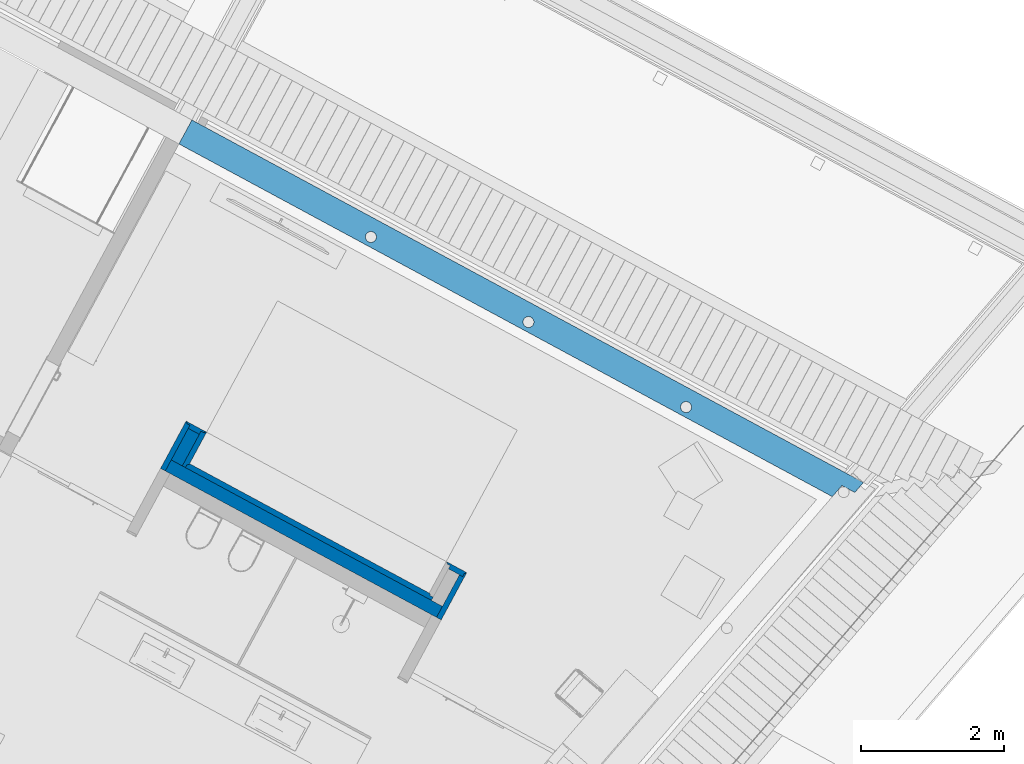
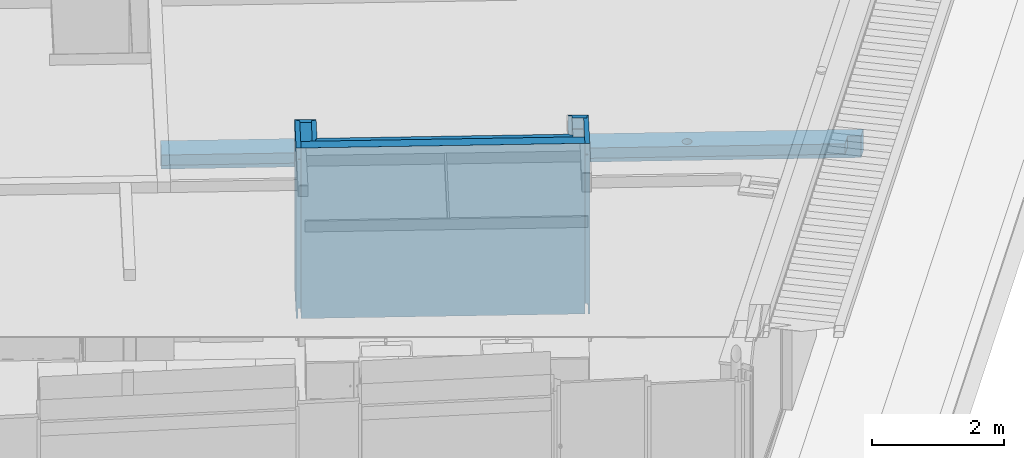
# One storey, part 11 of 48: 9 walls.
"""IFC2X3 building model written with IfcOpenShell, lengths in metres."""

from ifc_helpers import new_model, entity, si_unit, converted_unit, derived_unit, money_unit, direction, frame, origin_with_axes, place, context, subcontext, project, spatial, faceted_brep, material, material_list, type_object, element, save


model = new_model("IFC2X3")

# Units and contexts
model_context = context("Model", 3, precision=1e-05, world=origin_with_axes(), true_north=direction((0.0, 1.0)))
body_context = subcontext(model_context, "Body", "Model", "MODEL_VIEW")
ifc_project = project(units=[si_unit("LENGTHUNIT", "METRE"), si_unit("AREAUNIT", "SQUARE_METRE"), si_unit("VOLUMEUNIT", "CUBIC_METRE"), converted_unit("PLANEANGLEUNIT", "DEGREE", entity("IfcPlaneAngleMeasure", 0.0174532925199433), si_unit("PLANEANGLEUNIT", "RADIAN"), dimensions=[0, 0, 0, 0, 0, 0, 0]), money_unit("EUR"), converted_unit("TIMEUNIT", "Year", entity("IfcTimeMeasure", 31556926.0), si_unit("TIMEUNIT", "SECOND"), dimensions=[0, 0, 1, 0, 0, 0, 0]), si_unit("MASSUNIT", "GRAM", prefix="KILO"), si_unit("THERMODYNAMICTEMPERATUREUNIT", "DEGREE_CELSIUS"), si_unit("LUMINOUSINTENSITYUNIT", "LUMEN"), si_unit("ENERGYUNIT", "JOULE", prefix="MEGA"), derived_unit("THERMALCONDUCTANCEUNIT", [(si_unit("POWERUNIT", "WATT"), 1), (si_unit("LENGTHUNIT", "METRE"), -1), (si_unit("THERMODYNAMICTEMPERATUREUNIT", "KELVIN"), -1)]), derived_unit("SPECIFICHEATCAPACITYUNIT", [(si_unit("ENERGYUNIT", "JOULE"), 1), (si_unit("MASSUNIT", "GRAM", prefix="KILO"), -1), (si_unit("THERMODYNAMICTEMPERATUREUNIT", "KELVIN"), -1)]), derived_unit("MASSDENSITYUNIT", [(si_unit("MASSUNIT", "GRAM", prefix="KILO"), 1), (si_unit("VOLUMEUNIT", "CUBIC_METRE"), -1)])], contexts=[model_context])

# Site, building, storey
site_placement = place(None, frame((-3.949935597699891, 1.740105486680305, 0.0), z_axis=(0.0, 0.0, 1.0), x_axis=(0.8799804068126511, -0.475009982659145, 0.0)))
site = spatial("IfcSite", under=ifc_project, at=site_placement, Name="Gelände", CompositionType="ELEMENT")
building_placement = place(site_placement, origin_with_axes())
building = spatial("IfcBuilding", under=site, at=building_placement, Name="Gebäude", CompositionType="ELEMENT")
storey_placement = place(building_placement, frame((0.0, 0.0, 4.55), z_axis=(0.0, 0.0, 1.0), x_axis=(1.0, 0.0, 0.0)))
storey = spatial("IfcBuildingStorey", under=building, at=storey_placement, Name="Staffelgeschoss", CompositionType="ELEMENT", Elevation=4.55)

# Walls
ifc_material_1 = material(Name="_SIWH - MW Kalksandstein")
wall_type_1 = type_object("IfcWallType", Name="_SIWH - WI | KS 17,5 | 17,5cm 175", PredefinedType="NOTDEFINED")
wall_1_placement = place(storey_placement, frame((19.36753332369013, 7.227148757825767, -0.1900000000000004), z_axis=(0.0, 0.0, 1.0), x_axis=(0.0, -1.0, 0.0)))
element("IfcWall", 1, at=wall_1_placement, inside=storey, type_object=wall_type_1, material=ifc_material_1, Name="I-Wand012", context=body_context, shape_type="Brep", body=[
    faceted_brep([(0.0, 0.0, 0.0), (0.0, 0.0, 3.154), (0.0, 0.1750000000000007, 3.154), (0.0, 0.1750000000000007, 0.0), (0.5, 0.0, 0.0), (0.5, 0.0, 3.154), (0.5, 0.1750000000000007, 3.154), (0.5, 0.1750000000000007, 0.0)], [[[0, 1, 2, 3]], [[4, 5, 1, 0]], [[5, 6, 2, 1]], [[3, 2, 6, 7]], [[3, 7, 4, 0]], [[7, 6, 5, 4]]]),
])
wall_2_placement = place(storey_placement, frame((23.66753332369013, 6.552148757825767, -0.1900000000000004), z_axis=(0.0, 0.0, 1.0), x_axis=(-1.0, 0.0, 0.0)))
element("IfcWall", 2, at=wall_2_placement, inside=storey, type_object=wall_type_1, material=ifc_material_1, Name="I-Wand020", context=body_context, shape_type="Brep", body=[
    faceted_brep([(4.300000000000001, -0.1750000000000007, 0.0), (4.300000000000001, -0.1749999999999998, 3.154), (0.0, -0.1749999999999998, 3.154), (0.0, -0.1749999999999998, 0.0), (4.300000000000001, 0.0, 0.0), (4.300000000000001, 0.0, 3.154), (0.0, 0.0, 3.154), (0.0, 0.0, 0.0)], [[[0, 1, 2, 3]], [[4, 5, 1, 0]], [[5, 6, 2, 1]], [[3, 2, 6, 7]], [[7, 4, 0, 3]], [[7, 6, 5, 4]]]),
])
ifc_material_2 = material(Name="_SIWH - Gipskarton")
ifc_material_3 = material(Name="_SIWH - Installationswand, raumhoch")
ifc_material_list_1 = material_list([ifc_material_2, ifc_material_2, ifc_material_3])
wall_type_2 = type_object("IfcWallType", Name="_SIWH - WI | Vorsatz-GK 2-lagig | 7,5cm  75", PredefinedType="NOTDEFINED")
wall_3_placement = place(storey_placement, frame((19.29253332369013, 6.552148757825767, -0.1899999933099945), z_axis=(0.0, 0.0, 1.0), x_axis=(0.0, 1.0, 0.0)))
element("IfcWall", 3, at=wall_3_placement, inside=storey, type_object=wall_type_2, material=ifc_material_list_1, Name="L-Wand021", context=body_context, shape_type="Brep", body=[
    faceted_brep([(0.75, 0.0, 3.153999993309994), (0.0, 0.0, 3.153999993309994), (0.0, -0.01249999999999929, 3.153999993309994), (0.75, -0.01249999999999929, 3.153999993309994), (0.75, 0.0, 0.0), (0.0, 0.0, 0.0), (0.0, -0.01249999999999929, 0.0), (0.75, -0.01249999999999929, 0.0)], [[[0, 1, 2, 3]], [[4, 5, 1, 0]], [[2, 1, 5, 6]], [[3, 2, 6, 7]], [[3, 7, 4, 0]], [[7, 6, 5, 4]]]),
    faceted_brep([(0.7374999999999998, -0.01249999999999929, 3.153999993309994), (0.0, -0.01249999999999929, 3.153999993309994), (0.0, -0.02499999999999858, 3.153999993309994), (0.7374999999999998, -0.02499999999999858, 3.153999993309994), (0.7374999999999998, -0.01249999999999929, 0.0), (0.0, -0.01249999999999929, 0.0), (0.0, -0.02499999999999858, 0.0), (0.7374999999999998, -0.02499999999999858, 0.0)], [[[0, 1, 2, 3]], [[4, 5, 1, 0]], [[2, 1, 5, 6]], [[3, 2, 6, 7]], [[3, 7, 4, 0]], [[7, 6, 5, 4]]]),
    faceted_brep([(0.0, -0.07499999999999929, 0.1899999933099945), (0.7249999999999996, -0.07499999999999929, 0.1899999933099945), (0.7249999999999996, -0.07499999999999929, 2.939999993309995), (0.0, -0.07499999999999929, 2.939999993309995), (0.7249999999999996, -0.02499999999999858, 0.1899999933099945), (0.0, -0.02499999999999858, 0.1899999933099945), (0.7249999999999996, -0.02499999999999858, 2.939999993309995), (0.0, -0.02499999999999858, 2.939999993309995)], [[[0, 1, 2, 3]], [[4, 1, 0, 5]], [[1, 4, 6, 2]], [[3, 2, 6, 7]], [[5, 0, 3, 7]], [[4, 5, 7, 6]]]),
    faceted_brep([(0.0, -0.07499999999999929, 2.954999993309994), (0.7249999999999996, -0.07499999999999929, 2.954999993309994), (0.7249999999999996, -0.07499999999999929, 3.153999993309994), (0.0, -0.07499999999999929, 3.153999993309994), (0.7249999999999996, -0.02499999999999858, 2.954999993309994), (0.0, -0.02499999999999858, 2.954999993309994), (0.7249999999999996, -0.02499999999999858, 3.153999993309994), (0.0, -0.02499999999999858, 3.153999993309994)], [[[0, 1, 2, 3]], [[4, 1, 0, 5]], [[1, 4, 6, 2]], [[2, 6, 7, 3]], [[5, 0, 3, 7]], [[4, 5, 7, 6]]]),
])
wall_4_placement = place(storey_placement, frame((19.29253332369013, 7.302148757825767, -0.1899999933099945), z_axis=(0.0, 0.0, 1.0), x_axis=(1.0, 0.0, 0.0)))
element("IfcWall", 4, at=wall_4_placement, inside=storey, type_object=wall_type_2, material=ifc_material_list_1, Name="L-Wand030", context=body_context, shape_type="Brep", body=[
    faceted_brep([(0.3125, 0.0, 3.153999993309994), (0.01249999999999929, 0.0, 3.153999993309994), (0.01249999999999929, -0.01250000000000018, 3.153999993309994), (0.3125, -0.01250000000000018, 3.153999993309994), (0.3125, 0.0, 0.0), (0.01249999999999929, 0.0, 0.0), (0.01249999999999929, -0.01250000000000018, 0.0), (0.3125, -0.01250000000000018, 0.0)], [[[0, 1, 2, 3]], [[4, 5, 1, 0]], [[2, 1, 5, 6]], [[3, 2, 6, 7]], [[3, 7, 4, 0]], [[7, 6, 5, 4]]]),
    faceted_brep([(0.3000000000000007, -0.01250000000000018, 3.153999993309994), (0.02499999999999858, -0.01250000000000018, 3.153999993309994), (0.02499999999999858, -0.02499999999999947, 3.153999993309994), (0.3000000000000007, -0.02499999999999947, 3.153999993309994), (0.3000000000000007, -0.01250000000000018, 0.0), (0.02499999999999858, -0.01250000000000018, 0.0), (0.02499999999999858, -0.02500000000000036, 0.0), (0.3000000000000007, -0.02500000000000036, 0.0)], [[[0, 1, 2, 3]], [[4, 5, 1, 0]], [[2, 1, 5, 6]], [[3, 2, 6, 7]], [[3, 7, 4, 0]], [[7, 6, 5, 4]]]),
    faceted_brep([(0.25, -0.07500000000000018, 0.1899999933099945), (0.25, -0.02500000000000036, 0.1899999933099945), (0.25, -0.02499999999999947, 2.939999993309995), (0.25, -0.07500000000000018, 2.939999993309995), (0.07499999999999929, -0.02500000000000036, 0.1899999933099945), (0.07499999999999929, -0.07500000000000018, 0.1899999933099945), (0.07499999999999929, -0.02499999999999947, 2.939999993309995), (0.07499999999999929, -0.07500000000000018, 2.939999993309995)], [[[0, 1, 2, 3]], [[4, 1, 0, 5]], [[1, 4, 6, 2]], [[3, 2, 6, 7]], [[5, 0, 3, 7]], [[4, 5, 7, 6]]]),
    faceted_brep([(0.25, -0.07500000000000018, 2.954999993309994), (0.25, -0.02499999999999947, 2.954999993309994), (0.25, -0.02499999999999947, 3.153999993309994), (0.25, -0.07500000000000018, 3.153999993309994), (0.07499999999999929, -0.02499999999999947, 2.954999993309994), (0.07499999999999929, -0.07500000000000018, 2.954999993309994), (0.07499999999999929, -0.02499999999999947, 3.153999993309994), (0.07499999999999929, -0.07500000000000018, 3.153999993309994)], [[[0, 1, 2, 3]], [[4, 1, 0, 5]], [[1, 4, 6, 2]], [[3, 2, 6, 7]], [[5, 0, 3, 7]], [[4, 5, 7, 6]]]),
])
wall_5_placement = place(storey_placement, frame((19.61753332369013, 6.802148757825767, -0.1899999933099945), z_axis=(0.0, 0.0, 1.0), x_axis=(1.0, 0.0, 0.0)))
element("IfcWall", 5, at=wall_5_placement, inside=storey, type_object=wall_type_2, material=ifc_material_list_1, Name="L-Wand031", context=body_context, shape_type="Brep", body=[
    faceted_brep([(3.8125, 0.0, 3.153999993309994), (0.0, 0.0, 3.153999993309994), (0.0, -0.01250000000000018, 3.153999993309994), (3.8125, -0.01249999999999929, 3.153999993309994), (3.8125, 0.0, 0.0), (0.0, 0.0, 0.0), (0.0, -0.01250000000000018, 0.0), (3.8125, -0.01250000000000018, 0.0)], [[[0, 1, 2, 3]], [[4, 5, 1, 0]], [[2, 1, 5, 6]], [[3, 2, 6, 7]], [[3, 7, 4, 0]], [[7, 6, 5, 4]]]),
    faceted_brep([(3.824999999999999, -0.01249999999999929, 3.153999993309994), (-0.01249999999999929, -0.01250000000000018, 3.153999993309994), (-0.01249999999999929, -0.02499999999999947, 3.153999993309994), (3.824999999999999, -0.02499999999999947, 3.153999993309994), (3.824999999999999, -0.01250000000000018, 0.0), (-0.01249999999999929, -0.01250000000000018, 0.0), (-0.01249999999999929, -0.02500000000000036, 0.0), (3.824999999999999, -0.02499999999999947, 0.0)], [[[0, 1, 2, 3]], [[4, 5, 1, 0]], [[2, 1, 5, 6]], [[3, 2, 6, 7]], [[3, 7, 4, 0]], [[7, 6, 5, 4]]]),
    faceted_brep([(3.875, -0.07500000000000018, 0.1899999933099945), (3.875, -0.02499999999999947, 0.1899999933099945), (3.875, -0.02499999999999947, 2.939999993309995), (3.875, -0.07499999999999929, 2.939999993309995), (-0.02499999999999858, -0.02500000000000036, 0.1899999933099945), (-0.02499999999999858, -0.07500000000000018, 0.1899999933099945), (-0.02499999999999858, -0.02499999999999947, 2.939999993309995), (-0.02499999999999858, -0.07500000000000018, 2.939999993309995)], [[[0, 1, 2, 3]], [[4, 1, 0, 5]], [[1, 4, 6, 2]], [[3, 2, 6, 7]], [[5, 0, 3, 7]], [[4, 5, 7, 6]]]),
    faceted_brep([(3.875, -0.07499999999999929, 2.954999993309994), (3.875, -0.02499999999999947, 2.954999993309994), (3.875, -0.02499999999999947, 3.153999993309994), (3.875, -0.07499999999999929, 3.153999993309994), (-0.02499999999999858, -0.02499999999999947, 2.954999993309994), (-0.02499999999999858, -0.07500000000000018, 2.954999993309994), (-0.02499999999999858, -0.02499999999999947, 3.153999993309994), (-0.02499999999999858, -0.07500000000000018, 3.153999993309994)], [[[0, 1, 2, 3]], [[4, 1, 0, 5]], [[1, 4, 6, 2]], [[3, 2, 6, 7]], [[5, 0, 3, 7]], [[4, 5, 7, 6]]]),
])
wall_6_placement = place(storey_placement, frame((19.61753332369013, 7.302148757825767, -0.1899999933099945), z_axis=(0.0, 0.0, 1.0), x_axis=(0.0, -1.0, 0.0)))
element("IfcWall", 6, at=wall_6_placement, inside=storey, type_object=wall_type_2, material=ifc_material_list_1, Name="L-Wand029", context=body_context, shape_type="Brep", body=[
    faceted_brep([(0.5125000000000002, 0.0, 3.153999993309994), (0.0, 0.0, 3.153999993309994), (0.0, -0.01249999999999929, 3.153999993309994), (0.5125000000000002, -0.01249999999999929, 3.153999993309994), (0.5125000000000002, 0.0, 0.0), (0.0, 0.0, 0.0), (0.0, -0.01249999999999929, 0.0), (0.5125000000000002, -0.01249999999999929, 0.0)], [[[0, 1, 2, 3]], [[4, 5, 1, 0]], [[2, 1, 5, 6]], [[3, 2, 6, 7]], [[3, 7, 4, 0]], [[7, 6, 5, 4]]]),
    faceted_brep([(0.5250000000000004, -0.01249999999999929, 3.153999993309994), (0.01250000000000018, -0.01249999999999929, 3.153999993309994), (0.01250000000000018, -0.02499999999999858, 3.153999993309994), (0.5250000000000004, -0.02499999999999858, 3.153999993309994), (0.5250000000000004, -0.01249999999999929, 0.0), (0.01250000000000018, -0.01249999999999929, 0.0), (0.01250000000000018, -0.02499999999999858, 0.0), (0.5250000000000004, -0.02499999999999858, 0.0)], [[[0, 1, 2, 3]], [[4, 5, 1, 0]], [[2, 1, 5, 6]], [[3, 2, 6, 7]], [[3, 7, 4, 0]], [[7, 6, 5, 4]]]),
    faceted_brep([(0.5750000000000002, -0.02499999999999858, 0.1899999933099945), (0.02500000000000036, -0.02499999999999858, 0.1899999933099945), (0.02500000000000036, -0.02499999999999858, 2.939999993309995), (0.5750000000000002, -0.02499999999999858, 2.939999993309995), (0.02500000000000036, -0.07499999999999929, 0.1899999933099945), (0.5750000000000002, -0.07499999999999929, 0.1899999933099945), (0.02500000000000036, -0.07499999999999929, 2.939999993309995), (0.5750000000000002, -0.07499999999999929, 2.939999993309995)], [[[0, 1, 2, 3]], [[4, 1, 0, 5]], [[1, 4, 6, 2]], [[3, 2, 6, 7]], [[5, 0, 3, 7]], [[4, 5, 7, 6]]]),
    faceted_brep([(0.5750000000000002, -0.02499999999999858, 2.954999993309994), (0.02500000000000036, -0.02499999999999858, 2.954999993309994), (0.02500000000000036, -0.02499999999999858, 3.153999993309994), (0.5750000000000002, -0.02499999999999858, 3.153999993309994), (0.02500000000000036, -0.07499999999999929, 2.954999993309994), (0.5750000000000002, -0.07499999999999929, 2.954999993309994), (0.02500000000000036, -0.07499999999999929, 3.153999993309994), (0.5750000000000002, -0.07499999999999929, 3.153999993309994)], [[[0, 1, 2, 3]], [[4, 1, 0, 5]], [[1, 4, 6, 2]], [[7, 3, 2, 6]], [[5, 0, 3, 7]], [[4, 5, 7, 6]]]),
])
wall_7_placement = place(storey_placement, frame((23.41753332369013, 7.302148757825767, -0.1899999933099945), z_axis=(0.0, 0.0, 1.0), x_axis=(1.0, 0.0, 0.0)))
element("IfcWall", 7, at=wall_7_placement, inside=storey, type_object=wall_type_2, material=ifc_material_list_1, Name="L-Wand038", context=body_context, shape_type="Brep", body=[
    faceted_brep([(0.3249999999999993, 0.0, 3.153999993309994), (0.01249999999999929, 0.0, 3.153999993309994), (0.01249999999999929, -0.01250000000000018, 3.153999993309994), (0.3249999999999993, -0.01250000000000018, 3.153999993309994), (0.3249999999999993, 0.0, 0.0), (0.01249999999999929, 0.0, 0.0), (0.01249999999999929, -0.01250000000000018, 0.0), (0.3249999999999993, -0.01250000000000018, 0.0)], [[[0, 1, 2, 3]], [[4, 5, 1, 0]], [[2, 1, 5, 6]], [[3, 2, 6, 7]], [[3, 7, 4, 0]], [[7, 6, 5, 4]]]),
    faceted_brep([(0.3125, -0.01250000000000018, 3.153999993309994), (0.02499999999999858, -0.01250000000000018, 3.153999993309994), (0.02499999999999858, -0.02499999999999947, 3.153999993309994), (0.3125, -0.02499999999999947, 3.153999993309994), (0.3125, -0.01250000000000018, 0.0), (0.02499999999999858, -0.01250000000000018, 0.0), (0.02499999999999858, -0.02500000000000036, 0.0), (0.3125, -0.02500000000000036, 0.0)], [[[0, 1, 2, 3]], [[4, 5, 1, 0]], [[2, 1, 5, 6]], [[3, 2, 6, 7]], [[3, 7, 4, 0]], [[7, 6, 5, 4]]]),
    faceted_brep([(0.3000000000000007, -0.07500000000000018, 0.1899999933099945), (0.3000000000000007, -0.02500000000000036, 0.1899999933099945), (0.3000000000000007, -0.02499999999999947, 2.939999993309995), (0.3000000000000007, -0.07500000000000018, 2.939999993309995), (0.07499999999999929, -0.02500000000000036, 0.1899999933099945), (0.07499999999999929, -0.07500000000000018, 0.1899999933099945), (0.07499999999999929, -0.02499999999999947, 2.939999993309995), (0.07499999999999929, -0.07500000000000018, 2.939999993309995)], [[[0, 1, 2, 3]], [[4, 1, 0, 5]], [[1, 4, 6, 2]], [[3, 2, 6, 7]], [[5, 0, 3, 7]], [[4, 5, 7, 6]]]),
    faceted_brep([(0.3000000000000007, -0.07500000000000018, 2.954999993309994), (0.3000000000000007, -0.02499999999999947, 2.954999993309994), (0.3000000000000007, -0.02499999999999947, 3.153999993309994), (0.3000000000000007, -0.07500000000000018, 3.153999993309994), (0.07499999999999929, -0.02499999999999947, 2.954999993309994), (0.07499999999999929, -0.07500000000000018, 2.954999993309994), (0.07499999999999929, -0.02499999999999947, 3.153999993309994), (0.07499999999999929, -0.07500000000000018, 3.153999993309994)], [[[0, 1, 2, 3]], [[4, 1, 0, 5]], [[1, 4, 6, 2]], [[3, 2, 6, 7]], [[5, 0, 3, 7]], [[4, 5, 7, 6]]]),
])
wall_8_placement = place(storey_placement, frame((23.74253332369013, 7.302148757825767, -0.1899999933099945), z_axis=(0.0, 0.0, 1.0), x_axis=(0.0, -1.0, 0.0)))
element("IfcWall", 8, at=wall_8_placement, inside=storey, type_object=wall_type_2, material=ifc_material_list_1, Name="L-Wand042", context=body_context, shape_type="Brep", body=[
    faceted_brep([(0.75, -0.01249999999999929, 3.153999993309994), (0.75, 0.0, 3.153999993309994), (0.01250000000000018, 0.0, 3.153999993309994), (0.01250000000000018, -0.01249999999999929, 3.153999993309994), (0.75, -0.01249999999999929, 0.0), (0.75, 0.0, 0.0), (0.01250000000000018, 0.0, 0.0), (0.01250000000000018, -0.01249999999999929, 0.0)], [[[0, 1, 2, 3]], [[0, 4, 5, 1]], [[1, 5, 6, 2]], [[3, 2, 6, 7]], [[4, 0, 3, 7]], [[5, 4, 7, 6]]]),
    faceted_brep([(0.75, -0.02499999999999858, 3.153999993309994), (0.75, -0.01249999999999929, 3.153999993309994), (0.02500000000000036, -0.01249999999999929, 3.153999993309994), (0.02500000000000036, -0.02499999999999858, 3.153999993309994), (0.75, -0.02499999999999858, 0.0), (0.75, -0.01249999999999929, 0.0), (0.02500000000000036, -0.01249999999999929, 0.0), (0.02500000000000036, -0.02499999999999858, 0.0)], [[[0, 1, 2, 3]], [[0, 4, 5, 1]], [[1, 5, 6, 2]], [[3, 2, 6, 7]], [[4, 0, 3, 7]], [[5, 4, 7, 6]]]),
    faceted_brep([(0.75, -0.02499999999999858, 0.1899999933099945), (0.07500000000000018, -0.02499999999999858, 0.1899999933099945), (0.07500000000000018, -0.02499999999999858, 2.939999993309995), (0.75, -0.02499999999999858, 2.939999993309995), (0.07500000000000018, -0.07499999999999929, 0.1899999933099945), (0.75, -0.07499999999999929, 0.1899999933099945), (0.07500000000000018, -0.07499999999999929, 2.939999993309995), (0.75, -0.07499999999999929, 2.939999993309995)], [[[0, 1, 2, 3]], [[4, 1, 0, 5]], [[1, 4, 6, 2]], [[3, 2, 6, 7]], [[5, 0, 3, 7]], [[4, 5, 7, 6]]]),
    faceted_brep([(0.75, -0.02499999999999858, 2.954999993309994), (0.07500000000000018, -0.02499999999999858, 2.954999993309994), (0.07500000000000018, -0.02499999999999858, 3.153999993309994), (0.75, -0.02499999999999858, 3.153999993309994), (0.07500000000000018, -0.07499999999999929, 2.954999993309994), (0.75, -0.07499999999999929, 2.954999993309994), (0.07500000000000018, -0.07499999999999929, 3.153999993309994), (0.75, -0.07499999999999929, 3.153999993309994)], [[[0, 1, 2, 3]], [[4, 1, 0, 5]], [[1, 4, 6, 2]], [[6, 7, 3, 2]], [[5, 0, 3, 7]], [[4, 5, 7, 6]]]),
])
ifc_material_4 = material(Name="_SIWH - Beton, Stahlbeton")
ifc_material_5 = material(Name="_SIWH - Dämmung, weich Mineralwolle")
ifc_material_list_2 = material_list([ifc_material_4, ifc_material_5])
wall_type_3 = type_object("IfcWallType", Name="_SIWH - WA | Stb. 20+WD 18 | 38cm 380", PredefinedType="NOTDEFINED")
wall_9_placement = place(storey_placement, frame((27.97633107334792, 10.85780061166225, -0.4000000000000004), z_axis=(0.0, 0.0, 1.0), x_axis=(-1.0, 0.0, 0.0)))
element("IfcWall", 9, at=wall_9_placement, inside=storey, type_object=wall_type_3, material=ifc_material_list_2, Name="A-Wand050", context=body_context, shape_type="Brep", body=[
    faceted_brep([(7.573870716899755, 0.02533533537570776, 0.4000000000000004), (7.563075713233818, 0.04652172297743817, 0.4000000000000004), (7.55935600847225, 0.07000701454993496, 0.4000000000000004), (7.563075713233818, 0.09349230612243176, 0.4000000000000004), (7.573870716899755, 0.1146786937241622, 0.4000000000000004), (7.590684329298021, 0.1314923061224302, 0.4000000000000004), (7.611870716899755, 0.142287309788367, 0.4000000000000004), (7.63535600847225, 0.1460070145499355, 0.4000000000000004), (7.658841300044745, 0.142287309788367, 0.4000000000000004), (7.680027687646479, 0.1314923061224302, 0.4000000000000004), (7.696841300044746, 0.1146786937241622, 0.4000000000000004), (7.707636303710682, 0.09349230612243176, 0.4000000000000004), (7.711356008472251, 0.07000701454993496, 0.4000000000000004), (7.707636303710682, 0.04652172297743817, 0.4000000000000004), (7.696841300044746, 0.02533533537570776, 0.4000000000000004), (7.680027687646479, 0.008521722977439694, 0.4000000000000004), (7.663302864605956, 0.0, 0.4000000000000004), (10.60884069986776, 0.0, 0.4000000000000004), (10.60884069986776, 0.2000000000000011, 0.4000000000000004), (0.248396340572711, 0.1999999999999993, 0.4000000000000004), (0.204714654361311, 0.0, 0.4000000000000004), (2.610409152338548, 0.0, 0.4000000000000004), (2.593684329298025, 0.008521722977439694, 0.4000000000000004), (2.576870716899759, 0.02533533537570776, 0.4000000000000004), (2.566075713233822, 0.04652172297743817, 0.4000000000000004), (2.562356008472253, 0.07000701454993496, 0.4000000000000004), (2.566075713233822, 0.09349230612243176, 0.4000000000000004), (2.576870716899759, 0.1146786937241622, 0.4000000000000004), (2.593684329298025, 0.1314923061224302, 0.4000000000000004), (2.614870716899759, 0.142287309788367, 0.4000000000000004), (2.638356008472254, 0.1460070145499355, 0.4000000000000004), (2.661841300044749, 0.142287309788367, 0.4000000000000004), (2.683027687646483, 0.1314923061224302, 0.4000000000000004), (2.699841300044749, 0.1146786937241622, 0.4000000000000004), (2.710636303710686, 0.09349230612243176, 0.4000000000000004), (2.714356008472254, 0.07000701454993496, 0.4000000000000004), (2.710636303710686, 0.04652172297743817, 0.4000000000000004), (2.699841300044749, 0.02533533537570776, 0.4000000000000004), (2.683027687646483, 0.008521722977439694, 0.4000000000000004), (2.66630286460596, 0.0, 0.4000000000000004), (5.108909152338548, 0.0, 0.4000000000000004), (5.092184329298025, 0.008521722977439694, 0.4000000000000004), (5.075370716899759, 0.02533533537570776, 0.4000000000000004), (5.064575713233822, 0.04652172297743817, 0.4000000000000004), (5.060856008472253, 0.07000701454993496, 0.4000000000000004), (5.064575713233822, 0.09349230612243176, 0.4000000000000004), (5.075370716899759, 0.1146786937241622, 0.4000000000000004), (5.092184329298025, 0.1314923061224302, 0.4000000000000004), (5.113370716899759, 0.142287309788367, 0.4000000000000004), (5.136856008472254, 0.1460070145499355, 0.4000000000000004), (5.160341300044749, 0.142287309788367, 0.4000000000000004), (5.181527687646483, 0.1314923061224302, 0.4000000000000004), (5.198341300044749, 0.1146786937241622, 0.4000000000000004), (5.209136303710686, 0.09349230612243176, 0.4000000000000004), (5.212856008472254, 0.07000701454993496, 0.4000000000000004), (5.209136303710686, 0.04652172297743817, 0.4000000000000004), (5.198341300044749, 0.02533533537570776, 0.4000000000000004), (5.181527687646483, 0.008521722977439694, 0.4000000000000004), (5.16480286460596, 0.0, 0.4000000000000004), (7.607409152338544, 0.0, 0.4000000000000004), (7.590684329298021, 0.008521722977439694, 0.4000000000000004), (7.573870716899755, 0.02533533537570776, 0.21), (7.563075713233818, 0.04652172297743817, 0.21), (7.55935600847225, 0.07000701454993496, 0.21), (7.563075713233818, 0.09349230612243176, 0.21), (7.573870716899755, 0.1146786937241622, 0.21), (7.590684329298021, 0.1314923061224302, 0.21), (7.611870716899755, 0.142287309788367, 0.21), (7.63535600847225, 0.1460070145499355, 0.21), (7.658841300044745, 0.142287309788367, 0.21), (7.680027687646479, 0.1314923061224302, 0.21), (7.696841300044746, 0.1146786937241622, 0.21), (7.707636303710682, 0.09349230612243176, 0.21), (7.711356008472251, 0.07000701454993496, 0.21), (7.707636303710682, 0.04652172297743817, 0.21), (7.696841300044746, 0.02533533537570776, 0.21), (7.680027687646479, 0.008521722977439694, 0.21), (7.663302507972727, -1.817137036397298e-07, 0.21), (10.60884069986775, -2.515588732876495e-07, 0.2100000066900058), (10.60884069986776, 0.2000000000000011, 0.2100000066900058), (0.248396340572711, 0.1999999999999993, 0.2100000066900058), (0.204714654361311, -4.854229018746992e-09, 0.2100000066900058), (2.61040927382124, -6.189852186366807e-08, 0.21), (2.593684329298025, 0.008521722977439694, 0.21), (2.576870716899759, 0.02533533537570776, 0.21), (2.566075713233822, 0.04652172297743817, 0.21), (2.562356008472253, 0.07000701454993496, 0.21), (2.566075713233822, 0.09349230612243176, 0.21), (2.576870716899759, 0.1146786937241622, 0.21), (2.593684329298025, 0.1314923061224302, 0.21), (2.614870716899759, 0.142287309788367, 0.21), (2.638356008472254, 0.1460070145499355, 0.21), (2.661841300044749, 0.142287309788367, 0.21), (2.683027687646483, 0.1314923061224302, 0.21), (2.699841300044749, 0.1146786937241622, 0.21), (2.710636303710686, 0.09349230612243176, 0.21), (2.714356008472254, 0.07000701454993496, 0.21), (2.710636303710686, 0.04652172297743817, 0.21), (2.699841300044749, 0.02533533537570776, 0.21), (2.683027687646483, 0.008521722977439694, 0.21), (2.666302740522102, -6.322388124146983e-08, 0.21), (5.108909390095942, -1.211434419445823e-07, 0.21), (5.092184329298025, 0.008521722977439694, 0.21), (5.075370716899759, 0.02533533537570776, 0.21), (5.064575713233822, 0.04652172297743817, 0.21), (5.060856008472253, 0.07000701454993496, 0.21), (5.064575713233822, 0.09349230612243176, 0.21), (5.075370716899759, 0.1146786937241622, 0.21), (5.092184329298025, 0.1314923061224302, 0.21), (5.113370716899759, 0.142287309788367, 0.21), (5.136856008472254, 0.1460070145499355, 0.21), (5.160341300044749, 0.142287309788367, 0.21), (5.181527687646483, 0.1314923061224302, 0.21), (5.198341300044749, 0.1146786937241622, 0.21), (5.209136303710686, 0.09349230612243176, 0.21), (5.212856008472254, 0.07000701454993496, 0.21), (5.209136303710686, 0.04652172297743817, 0.21), (5.198341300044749, 0.02533533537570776, 0.21), (5.181527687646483, 0.008521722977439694, 0.21), (5.164802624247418, -1.224687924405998e-07, 0.21), (7.607409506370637, -1.803883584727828e-07, 0.21), (7.590684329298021, 0.008521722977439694, 0.21)], [[[0, 1, 2, 3, 4, 5, 6, 7, 8, 9, 10, 11, 12, 13, 14, 15, 16, 17, 18, 19, 20, 21, 22, 23, 24, 25, 26, 27, 28, 29, 30, 31, 32, 33, 34, 35, 36, 37, 38, 39, 40, 41, 42, 43, 44, 45, 46, 47, 48, 49, 50, 51, 52, 53, 54, 55, 56, 57, 58, 59, 60]], [[1, 0, 61, 62]], [[2, 1, 62, 63]], [[3, 2, 63, 64]], [[4, 3, 64, 65]], [[5, 4, 65, 66]], [[6, 5, 66, 67]], [[7, 6, 67, 68]], [[8, 7, 68, 69]], [[9, 8, 69, 70]], [[10, 9, 70, 71]], [[11, 10, 71, 72]], [[12, 11, 72, 73]], [[13, 12, 73, 74]], [[14, 13, 74, 75]], [[15, 14, 75, 76]], [[77, 16, 15, 76]], [[16, 77, 78, 17]], [[17, 78, 79, 18]], [[18, 79, 80, 19]], [[19, 80, 81, 20]], [[82, 21, 20, 81]], [[22, 21, 82, 83]], [[23, 22, 83, 84]], [[24, 23, 84, 85]], [[25, 24, 85, 86]], [[26, 25, 86, 87]], [[27, 26, 87, 88]], [[28, 27, 88, 89]], [[29, 28, 89, 90]], [[30, 29, 90, 91]], [[31, 30, 91, 92]], [[32, 31, 92, 93]], [[33, 32, 93, 94]], [[34, 33, 94, 95]], [[35, 34, 95, 96]], [[36, 35, 96, 97]], [[37, 36, 97, 98]], [[38, 37, 98, 99]], [[100, 39, 38, 99]], [[101, 40, 39, 100]], [[41, 40, 101, 102]], [[42, 41, 102, 103]], [[43, 42, 103, 104]], [[44, 43, 104, 105]], [[45, 44, 105, 106]], [[46, 45, 106, 107]], [[47, 46, 107, 108]], [[48, 47, 108, 109]], [[49, 48, 109, 110]], [[50, 49, 110, 111]], [[51, 50, 111, 112]], [[52, 51, 112, 113]], [[53, 52, 113, 114]], [[54, 53, 114, 115]], [[55, 54, 115, 116]], [[56, 55, 116, 117]], [[57, 56, 117, 118]], [[119, 58, 57, 118]], [[120, 59, 58, 119]], [[60, 59, 120, 121]], [[0, 60, 121, 61]], [[121, 120, 119, 118, 117, 116, 115, 114, 113, 112, 111, 110, 109, 108, 107, 106, 105, 104, 103, 102, 101, 100, 99, 98, 97, 96, 95, 94, 93, 92, 91, 90, 89, 88, 87, 86, 85, 84, 83, 82, 81, 80, 79, 78, 77, 76, 75, 74, 73, 72, 71, 70, 69, 68, 67, 66, 65, 64, 63, 62, 61]]]),
    faceted_brep([(7.63535600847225, -0.005992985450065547, 0.4000000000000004), (7.611870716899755, -0.002273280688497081, 0.4000000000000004), (7.607409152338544, 0.0, 0.4000000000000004), (5.16480286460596, 0.0, 0.4000000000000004), (5.160341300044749, -0.002273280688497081, 0.4000000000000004), (5.136856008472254, -0.005992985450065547, 0.4000000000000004), (5.113370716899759, -0.002273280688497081, 0.4000000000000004), (5.108909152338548, 0.0, 0.4000000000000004), (2.66630286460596, 0.0, 0.4000000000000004), (2.661841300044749, -0.002273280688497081, 0.4000000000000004), (2.638356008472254, -0.005992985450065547, 0.4000000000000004), (2.614870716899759, -0.002273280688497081, 0.4000000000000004), (2.610409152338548, 0.0, 0.4000000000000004), (0.0, 0.0, 0.4000000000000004), (-0.03931351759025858, -0.1799999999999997, 0.4000000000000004), (10.60884069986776, -0.1799999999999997, 0.4000000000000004), (10.60884069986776, 0.0, 0.4000000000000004), (7.663302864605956, 0.0, 0.4000000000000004), (7.658841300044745, -0.002273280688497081, 0.4000000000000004), (7.63535600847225, -0.005992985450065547, 0.21), (7.611870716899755, -0.002273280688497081, 0.21), (7.607409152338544, 0.0, 0.21), (7.663302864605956, 0.0, 0.21), (10.60884069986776, 0.0, 0.0), (0.0, 0.0, 0.0), (2.610409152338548, 0.0, 0.21), (2.66630286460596, 0.0, 0.21), (5.108909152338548, 0.0, 0.21), (5.16480286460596, 0.0, 0.21), (5.160341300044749, -0.002273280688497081, 0.21), (5.136856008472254, -0.005992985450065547, 0.21), (5.113370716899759, -0.002273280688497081, 0.21), (2.661841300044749, -0.002273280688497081, 0.21), (2.638356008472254, -0.005992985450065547, 0.21), (2.614870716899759, -0.002273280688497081, 0.21), (-0.03931309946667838, -0.1799980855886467, 0.2750000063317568), (-0.03931309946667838, -0.1799980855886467, 0.3350000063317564), (-0.03931351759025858, -0.1799999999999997, 0.0), (0.2269699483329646, -0.1799999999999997, 0.3350000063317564), (0.2269699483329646, -0.1799999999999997, 6.689997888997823e-09), (10.60884069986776, -0.1799999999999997, 0.0), (7.658841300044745, -0.002273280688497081, 0.21), (0.2269721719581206, -0.1799898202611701, 6.689997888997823e-09), (0.165401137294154, -0.1800000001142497, 6.689997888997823e-09), (0.2269721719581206, -0.1799898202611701, 0.3350000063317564), (0.2269721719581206, -0.1799898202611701, 0.2750000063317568), (0.165401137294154, -0.1800000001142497, 0.2750000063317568)], [[[0, 1, 2, 3, 4, 5, 6, 7, 8, 9, 10, 11, 12, 13, 14, 15, 16, 17, 18]], [[1, 0, 19, 20]], [[21, 2, 1, 20]], [[22, 17, 16, 23, 24, 13, 12, 25, 26, 8, 7, 27, 28, 3, 2, 21]], [[4, 3, 28, 29]], [[5, 4, 29, 30]], [[6, 5, 30, 31]], [[27, 7, 6, 31]], [[9, 8, 26, 32]], [[10, 9, 32, 33]], [[11, 10, 33, 34]], [[25, 12, 11, 34]], [[35, 36, 14, 13, 24, 37]], [[36, 38, 39, 40, 15, 14]], [[40, 23, 16, 15]], [[18, 17, 22, 41]], [[0, 18, 41, 19]], [[22, 21, 20, 19, 41]], [[40, 39, 42, 43, 37, 24, 23]], [[26, 25, 34, 33, 32]], [[28, 27, 31, 30, 29]], [[44, 36, 35, 45]], [[43, 46, 35, 37]], [[44, 38, 36]], [[39, 38, 44, 45, 42]], [[42, 45, 46, 43]], [[45, 35, 46]]]),
])

save(model, "model.ifc")
